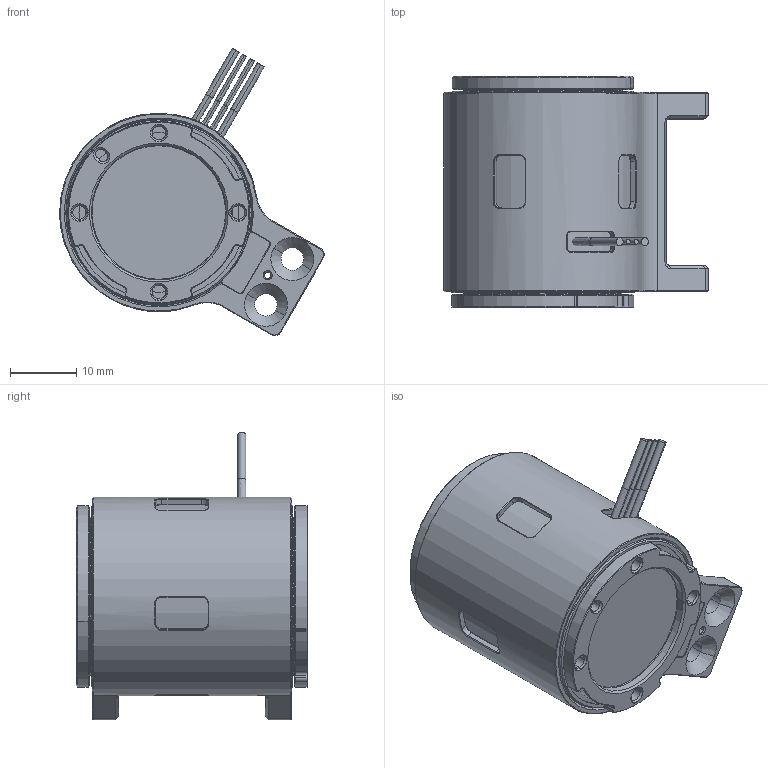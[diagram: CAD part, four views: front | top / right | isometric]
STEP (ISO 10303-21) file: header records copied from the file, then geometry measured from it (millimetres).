
FILE_DESCRIPTION((''),'2;1');
FILE_NAME('ASM0004_ASM','2026-01-28T15:04:20',('David Peng'),(''),'CREO PARAMETRIC BY PTC INC, 2024325','CREO PARAMETRIC BY PTC INC, 2024325','');
FILE_SCHEMA(('CONFIG_CONTROL_DESIGN'));
Length unit declared in the file: millimetre
Products named in the file (22): 062800000003_115; 062700000011_64; 061200000001_ASM_18_ASM; 063000000011_206; 061100000001_ASM_10_ASM; 065000000011-1_41; 065000000011-2_5; 065000000011_ASM_41_ASM; 060400000001_ASM_127_ASM; 065600000011_58; 064200000003_145; 064300000003_70; 063500000003_8; 063500000001_5; 060600000001_ASM_34_ASM; 064200000004_107; 063500000005_9; 060600000002_ASM_6_ASM; 065400000013_24; 060200000001_ASM_352_ASM; DIANJINEIBU; ASM0004_ASM
Assembly tree (33 placements, depth 5):
  ASM0004_ASM
    060200000001_ASM_352_ASM
      060400000001_ASM_127_ASM
        061200000001_ASM_18_ASM
          062800000003_115
          062700000011_64
        061100000001_ASM_10_ASM
          063000000011_206
        065000000011_ASM_41_ASM
          065000000011-1_41
          065000000011-2_5  x3
        062700000011_64
      065600000011_58
      060600000001_ASM_34_ASM
        064200000003_145
        064300000003_70  x8
        063500000003_8
        063500000001_5
      060600000002_ASM_6_ASM
        064200000004_107
        063500000005_9
      062700000011_64
      065400000013_24  x2
    DIANJINEIBU
Bounding box: 40.03 x 35 x 43.45 mm (x, y, z)
Volume: 27743.2 mm3; surface area: 18480.3 mm2
Topology: 26 solids, 34 shells, 1448 faces, 3896 edges, 2539 vertices
Faces by surface type: plane 528, cylinder 488, cone 250, bspline 104, torus 70, sphere 8
Entity records: 40975 total; most frequent: CARTESIAN_POINT 13303, DIRECTION 5966, ORIENTED_EDGE 5608, EDGE_CURVE 2852, AXIS2_PLACEMENT_3D 2341, VERTEX_POINT 1855, CIRCLE 1297, VECTOR 1284
